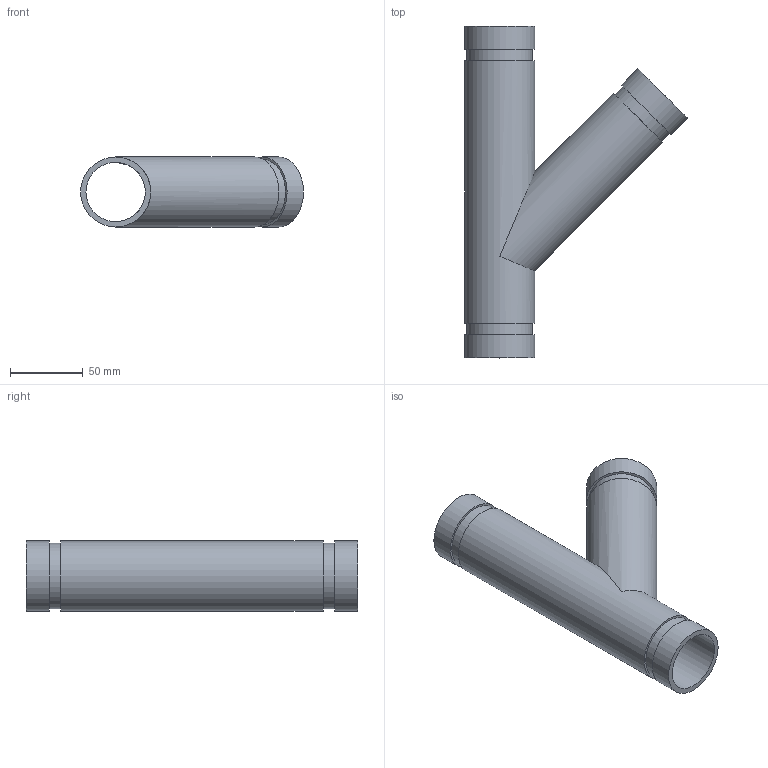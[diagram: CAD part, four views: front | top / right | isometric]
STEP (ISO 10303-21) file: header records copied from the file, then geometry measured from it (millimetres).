
FILE_DESCRIPTION(/* description */ ('VIC 45 DEG FABRICATED LATERAL No 30 SWS (OGS)','CAx-IF Rec.Pracs.---Representation and Presentation of Product Manufacturing Information (PMI)---4.0---2014-10-13'),/* implementation_level */ '2;1');
FILE_NAME(/* name */ 'C:\Users\kkamble\AppData\Roaming\Autodesk\ApplicationPlugins\Back Up\Victaulic_IPS_Lateral 45 Deg_No 30 SWS (OGS)\Victaulic_IPS_Lateral 45 Deg_No 30 SWS (OGS)_1.5 (40).stp',/* time_stamp */ '2020-09-16T22:20:26+06:00',/* author */ ('cgray'),/* organization */ ('Victaulic'),/* preprocessor_version */ 'ST-DEVELOPER v17.2',/* originating_system */ 'Autodesk Inventor 2019',/* authorisation */ '');
FILE_SCHEMA (('AP242_MANAGED_MODEL_BASED_3D_ENGINEERING_MIM_LF { 1 0 10303 442 1 1 4 }'));
Length unit declared in the file: inch
Products named in the file (1): 30 SWS-01.5
Bounding box: 153.45 x 228.6 x 48.26 mm (x, y, z)
Volume: 173487.8 mm3; surface area: 99879.7 mm2
Topology: 1 solids, 1 shells, 19 faces, 45 edges, 34 vertices
Faces by surface type: cylinder 10, plane 9
Full cylindrical faces by diameter (mm): 40.894 x2, 45.085 x3, 48.26 x5
Entity records: 748 total; most frequent: DIRECTION 145, CARTESIAN_POINT 116, ORIENTED_EDGE 90, AXIS2_PLACEMENT_3D 67, EDGE_CURVE 45, VERTEX_POINT 34, EDGE_LOOP 29, CIRCLE 27
